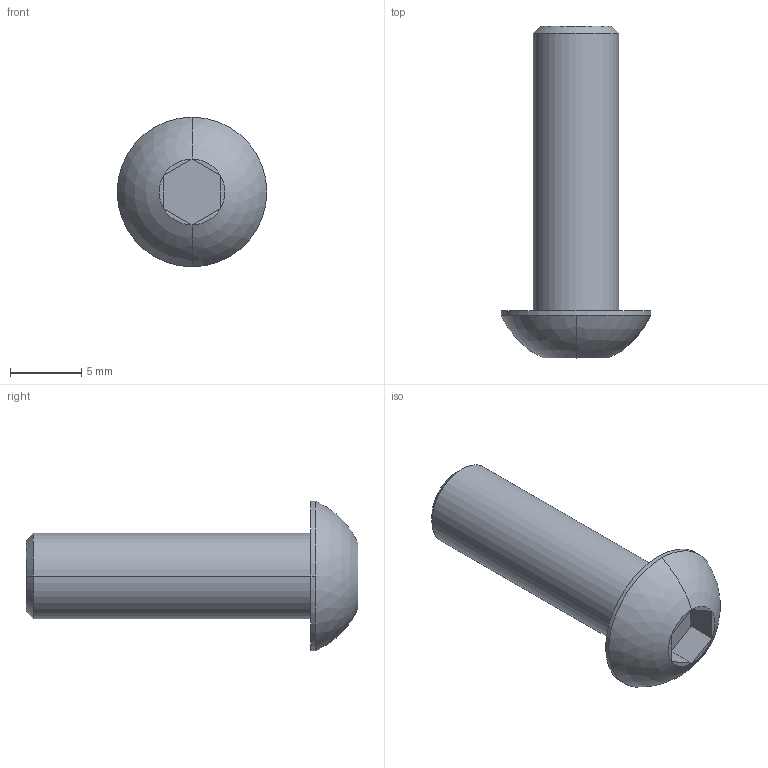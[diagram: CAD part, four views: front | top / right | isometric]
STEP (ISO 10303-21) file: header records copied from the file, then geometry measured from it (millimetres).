
FILE_DESCRIPTION((''),'2;1');
FILE_NAME('VTBEI0620','2002-12-27T',('Lipro doo'),('Lipro d.o.o.'),'PRO/ENGINEER BY PARAMETRIC TECHNOLOGY CORPORATION, 2001150','PRO/ENGINEER BY PARAMETRIC TECHNOLOGY CORPORATION, 2001150','');
FILE_SCHEMA(('CONFIG_CONTROL_DESIGN'));
Length unit declared in the file: millimetre
Products named in the file (1): VTBEI0620
Bounding box: 10.5 x 23.3 x 10.5 mm (x, y, z)
Volume: 729.6 mm3; surface area: 934.7 mm2
Topology: 1 solids, 2 shells, 25 faces, 50 edges, 28 vertices
Faces by surface type: plane 15, cylinder 6, cone 2, sphere 2
Entity records: 684 total; most frequent: DIRECTION 126, CARTESIAN_POINT 104, ORIENTED_EDGE 96, AXIS2_PLACEMENT_3D 50, EDGE_CURVE 50, VERTEX_POINT 28, VECTOR 26, LINE 26
